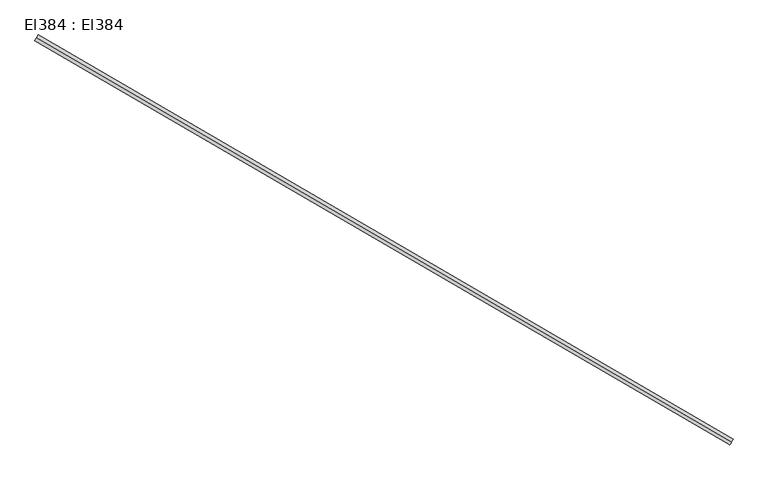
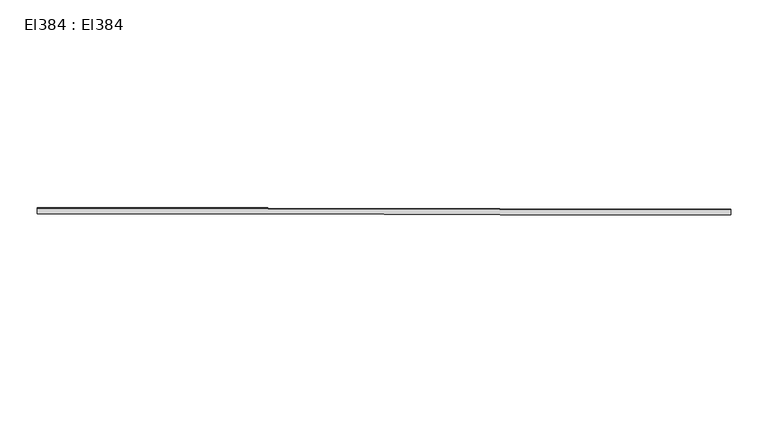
"""IFC4 building model written with IfcOpenShell, lengths in millimetres: cable carrier segment geometry, El384 : El384."""

from ifc_helpers import new_model, si_unit, point, frame, frame_2d, origin, place, context, project, spatial, circle_curve, trimmed, segment, composite_curve, outline, extrude, source, transform, mapped, element, save


def el384_el384_749ad69f(model_context):
    return source(origin(), model_context, "Body", "SweptSolid", [
        extrude(outline(composite_curve([segment(trimmed(circle_curve(frame_2d((0.0, -9.5)), 9.5), [point((0.0, -19.0))], [point((0.0, 0.0))], False, "CARTESIAN"), True, "CONTINUOUS"), segment(trimmed(circle_curve(frame_2d((0.0, -9.5)), 9.5), [point((0.0, 0.0))], [point((0.0, -19.0))], False, "CARTESIAN"), True, "CONTINUOUS")], self_intersect=False)), frame((11029.2848407, 21391.8363753, 9.5), z_axis=(-0.8643899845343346, 0.5028219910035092, 0.0), x_axis=(-0.5028219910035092, -0.8643899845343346, 0.0)), (0.0, 0.0, 1.0), 2325.53),
    ])


if __name__ == "__main__":
    model = new_model("IFC4")
    model_context = context("Model", 3, world=origin())
    ifc_project = project(units=[si_unit("LENGTHUNIT", "METRE", prefix="MILLI")], contexts=[model_context])
    site = spatial("IfcSite", under=ifc_project)
    building = spatial("IfcBuilding", under=site)
    placement = place(None, origin())
    el384_el384_shape = el384_el384_749ad69f(model_context)
    element("IfcCableCarrierSegment", 1, ObjectType="El384 : El384", at=placement, inside=building, context=model_context, shape_type="MappedRepresentation", body=[
        mapped(el384_el384_shape, transform((0.0, 0.0, 0.0), x_axis=(1.0, 0.0, 0.0), y_axis=(0.0, 1.0, 0.0), z_axis=(0.0, 0.0, 1.0))),
    ])
    save(model, "model.ifc")
